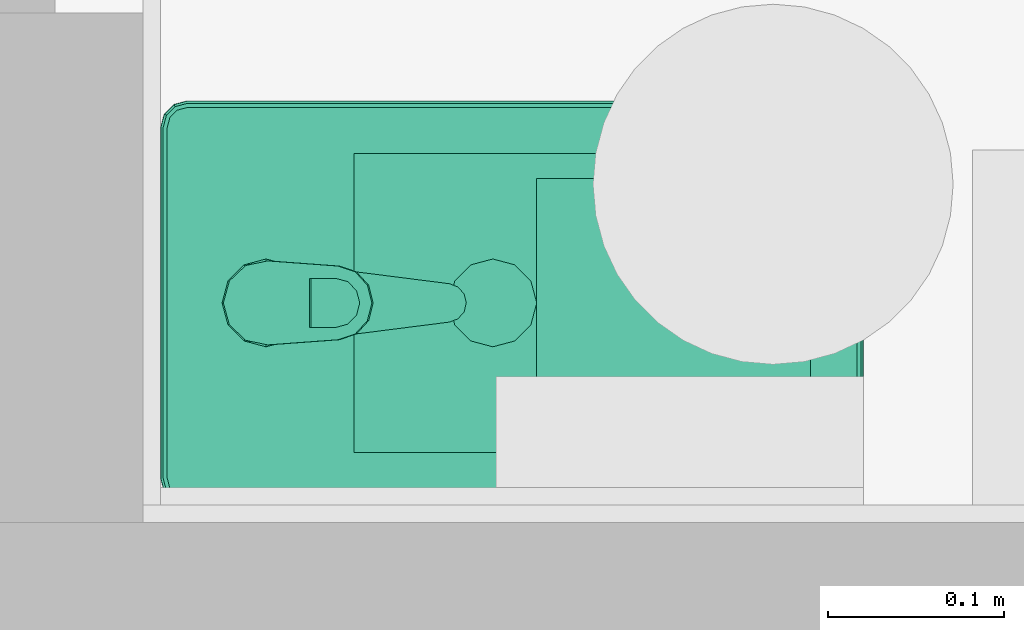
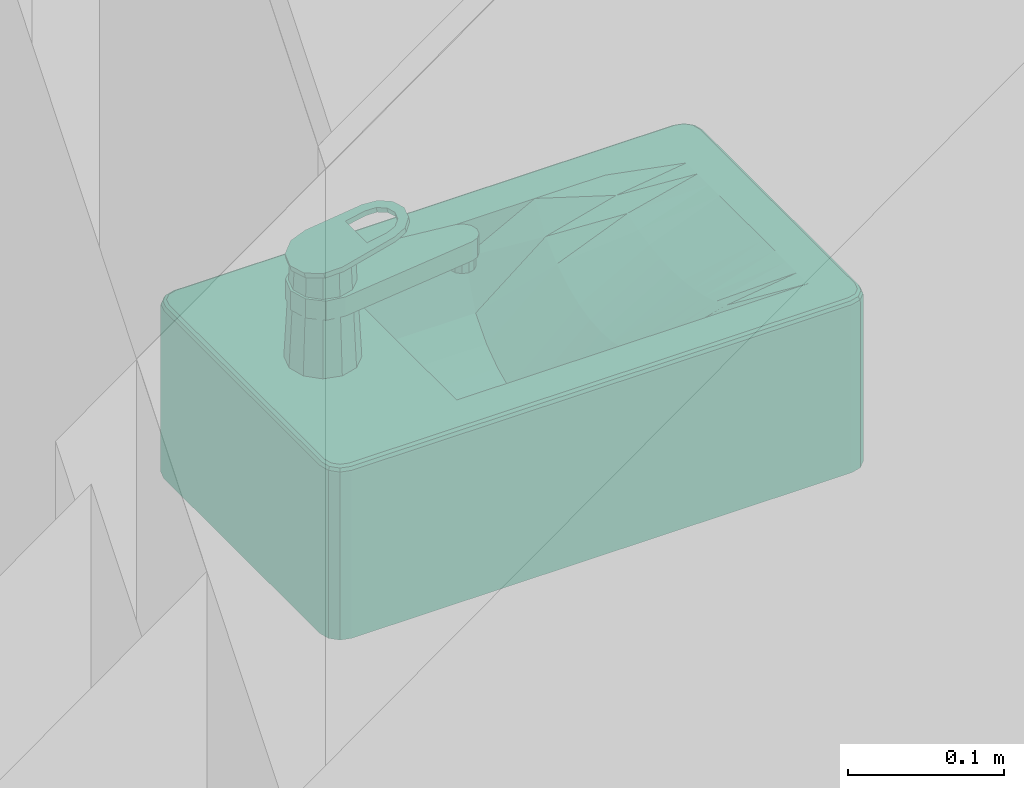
# One storey, part 257 of 301: 1 flow terminal.
"""IFC2X3 building model written with IfcOpenShell, lengths in millimetres."""

from ifc_helpers import new_model, entity, si_unit, converted_unit, derived_unit, money_unit, direction, frame, origin_with_axes, place, context, subcontext, project, spatial, open_shell, faceted_brep, surface_model, source, transform, mapped, type_object, element, save


model = new_model("IFC2X3")

# Units and contexts
model_context = context("Model", 3, precision=0.01, world=origin_with_axes(), true_north=direction((0.0, 1.0)))
body_context = subcontext(model_context, "Body", "Model", "MODEL_VIEW")
ifc_project = project(units=[si_unit("LENGTHUNIT", "METRE", prefix="MILLI"), si_unit("AREAUNIT", "SQUARE_METRE"), si_unit("VOLUMEUNIT", "CUBIC_METRE"), converted_unit("PLANEANGLEUNIT", "DEGREE", entity("IfcPlaneAngleMeasure", 0.0174532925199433), si_unit("PLANEANGLEUNIT", "RADIAN"), dimensions=[0, 0, 0, 0, 0, 0, 0]), money_unit("EUR"), converted_unit("TIMEUNIT", "Year", entity("IfcTimeMeasure", 31557600.0), si_unit("TIMEUNIT", "SECOND"), dimensions=[0, 0, 1, 0, 0, 0, 0]), si_unit("MASSUNIT", "GRAM", prefix="KILO"), si_unit("THERMODYNAMICTEMPERATUREUNIT", "DEGREE_CELSIUS"), si_unit("LUMINOUSINTENSITYUNIT", "LUMEN"), si_unit("ENERGYUNIT", "JOULE", prefix="MEGA"), derived_unit("THERMALCONDUCTANCEUNIT", [(si_unit("POWERUNIT", "WATT"), 1), (si_unit("LENGTHUNIT", "METRE"), -1), (si_unit("THERMODYNAMICTEMPERATUREUNIT", "KELVIN"), -1)]), derived_unit("SPECIFICHEATCAPACITYUNIT", [(si_unit("ENERGYUNIT", "JOULE"), 1), (si_unit("MASSUNIT", "GRAM", prefix="KILO"), -1), (si_unit("THERMODYNAMICTEMPERATUREUNIT", "KELVIN"), -1)]), derived_unit("MASSDENSITYUNIT", [(si_unit("MASSUNIT", "GRAM", prefix="KILO"), 1), (si_unit("VOLUMEUNIT", "CUBIC_METRE"), -1)])], contexts=[model_context])

# Site, building, storey
site_placement = place(None, frame((0.0, 0.0, 8650.0), z_axis=(0.0, 0.0, 1.0), x_axis=(1.0, 0.0, 0.0)))
site = spatial("IfcSite", under=ifc_project, at=site_placement, Name="43301:001:0844", CompositionType="ELEMENT")
building_placement = place(site_placement, origin_with_axes())
building = spatial("IfcBuilding", under=site, at=building_placement, Name="Kuressaare Ametikooli tuulikute mehaanikute õppekorpus", CompositionType="ELEMENT")
storey_placement = place(building_placement, origin_with_axes())
storey = spatial("IfcBuildingStorey", under=building, at=storey_placement, Name="1.korrus", CompositionType="ELEMENT", Elevation=0.0)

# Flow terminal
sanitary_terminal_type = type_object("IfcSanitaryTerminalType", Name="Basin 27", PredefinedType="NOTDEFINED")
shared_shape = source(origin_with_axes(), body_context, "Body", "SurfaceModel", [
    faceted_brep([(100.0, -400.0, 865.0), (-100.0, -400.0, 865.0), (-107.5, -397.9903810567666, 865.0), (-112.9903810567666, -392.5, 865.0), (-115.0, -385.0, 865.0), (-115.0, -14.99999999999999, 865.0), (-112.9903810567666, -7.500000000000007, 865.0), (-107.5, -2.009618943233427, 865.0), (-100.0, 0.0, 865.0), (100.0, 0.0, 865.0), (107.5, -2.009618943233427, 865.0), (112.9903810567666, -7.500000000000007, 865.0), (115.0, -14.99999999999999, 865.0), (115.0, -385.0, 865.0), (112.9903810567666, -392.5, 865.0), (107.5, -397.9903810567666, 865.0), (-85.0, -370.0, 865.0), (85.0, -370.0, 865.0), (85.0, -110.0, 865.0), (-85.0, -110.0, 865.0), (100.0000003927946, -400.0000003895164, 995.0), (-99.99999979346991, -400.0000003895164, 995.0), (-107.5000000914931, -397.9903813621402, 995.0), (-112.9903813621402, -392.5000000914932, 995.0), (-115.0000003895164, -384.99999979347, 995.0), (-115.0000003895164, -14.99999968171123, 995.0), (-112.9903813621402, -7.500000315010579, 995.0), (-107.5000000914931, -2.009619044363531, 995.0), (-99.99999979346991, -1.698735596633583e-08, 995.0), (100.0000003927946, -1.698735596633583e-08, 995.0), (107.4999997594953, -2.009619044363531, 995.0), (112.9903810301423, -7.500000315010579, 995.0), (115.0000000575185, -14.99999968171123, 995.0), (115.0000000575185, -384.99999979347, 995.0), (112.9903810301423, -392.5000000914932, 995.0), (107.4999997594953, -397.9903813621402, 995.0), (-85.0, -370.0, 999.9999996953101), (85.0, -370.0, 999.9999996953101), (85.0, -110.0, 999.9999996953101), (-85.0, -110.0, 999.9999996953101), (99.97757064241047, -399.8296295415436, 996.2940952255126), (-99.97757004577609, -399.8296295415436, 996.2940952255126), (-107.4118096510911, -397.8376310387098, 996.2940952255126), (-112.8376310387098, -392.4118096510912, 996.2940952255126), (-114.8296295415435, -384.9775700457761, 996.2940952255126), (-114.8296295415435, -15.02242943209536, 996.2940952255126), (-112.837631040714, -7.588190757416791, 996.2940952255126), (-107.4118096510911, -2.162369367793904, 996.2940952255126), (-99.97757004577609, -0.1703708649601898, 996.2940952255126), (99.97757064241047, -0.1703708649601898, 996.2940952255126), (107.4118093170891, -2.162369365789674, 996.2940952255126), (112.8376307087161, -7.588190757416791, 996.2940952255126), (114.8296292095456, -15.02242943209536, 996.2940952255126), (114.8296292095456, -384.9775700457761, 996.2940952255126), (112.8376307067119, -392.4118096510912, 996.2940952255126), (107.4118093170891, -397.8376310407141, 996.2940952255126), (-99.34173767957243, -4.999997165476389, 999.9999996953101), (-104.9118111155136, -6.492493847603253, 999.9999996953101), (-108.5075066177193, -10.08818934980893, 999.9999996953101), (-110.0000032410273, -15.65826187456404, 999.9999996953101), (-110.0000032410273, -384.3417376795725, 999.9999996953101), (-108.5075065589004, -389.9118111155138, 999.9999996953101), (-104.9118111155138, -393.5075065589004, 999.9999996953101), (-99.34173767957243, -395.0000032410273, 999.9999996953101), (99.34173819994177, -395.0000032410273, 999.9999996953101), (104.9118107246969, -393.5075066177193, 999.9999996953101), (108.5075062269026, -389.9118111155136, 999.9999996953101), (110.0000029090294, -384.3417376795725, 999.9999996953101), (110.0000029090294, -15.65826187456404, 999.9999996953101), (108.5075062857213, -10.08818934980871, 999.9999996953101), (104.9118107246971, -6.492493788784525, 999.9999996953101), (99.34173819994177, -4.999997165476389, 999.9999996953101), (99.80719978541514, -398.5355345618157, 998.5355339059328), (-99.80719920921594, -398.5355345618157, 998.5355339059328), (-106.7419367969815, -396.6773772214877, 998.5355339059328), (-111.6773772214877, -391.7419367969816, 998.5355339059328), (-113.5355345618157, -384.807199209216, 998.5355339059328), (-113.5355345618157, -15.1928002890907, 998.5355339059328), (-111.6773772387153, -8.258063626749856, 998.5355339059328), (-106.7419367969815, -3.322623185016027, 998.5355339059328), (-99.80719920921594, -1.464465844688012, 998.5355339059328), (99.80719978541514, -1.464465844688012, 998.5355339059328), (106.741936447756, -3.322623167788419, 998.5355339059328), (111.6773769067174, -8.258063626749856, 998.5355339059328), (113.5355342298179, -15.1928002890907, 998.5355339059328), (113.5355342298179, -384.807199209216, 998.5355339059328), (111.6773768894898, -391.7419367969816, 998.5355339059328), (106.741936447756, -396.6773772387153, 998.5355339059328), (-105.5816828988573, -5.332241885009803, 999.8296291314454), (-99.51210824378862, -3.70590425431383, 999.8296291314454), (-109.6677585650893, -9.41831755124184, 999.8296291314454), (-111.2940961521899, -15.48789128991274, 999.8296291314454), (-111.2940961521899, -384.5121082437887, 999.8296291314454), (-109.6677585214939, -390.5816828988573, 999.8296291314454), (-105.5816828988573, -394.667758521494, 999.8296291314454), (-99.51210824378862, -396.2940961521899, 999.8296291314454), (99.5121087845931, -396.2940961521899, 999.8296291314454), (105.581682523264, -394.6677585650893, 999.8296291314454), (109.667758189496, -390.5816828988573, 999.8296291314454), (111.294095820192, -384.5121082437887, 999.8296291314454), (111.294095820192, -15.48789128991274, 999.8296291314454), (109.6677582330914, -9.41831755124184, 999.8296291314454), (105.581682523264, -5.332241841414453, 999.8296291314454), (99.5121087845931, -3.70590425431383, 999.8296291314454)], [[[0, 1, 2, 3, 4, 5, 6, 7, 8, 9, 10, 11, 12, 13, 14, 15], [16, 17, 18, 19]], [[0, 20, 21, 1]], [[1, 21, 22, 2]], [[2, 22, 23, 3]], [[3, 23, 24, 4]], [[4, 24, 25, 5]], [[5, 25, 26, 6]], [[6, 26, 27, 7]], [[7, 27, 28, 8]], [[8, 28, 29, 9]], [[9, 29, 30, 10]], [[10, 30, 31, 11]], [[11, 31, 32, 12]], [[12, 32, 33, 13]], [[13, 33, 34, 14]], [[14, 34, 35, 15]], [[15, 35, 20, 0]], [[36, 37, 17, 16]], [[37, 38, 18, 17]], [[38, 39, 19, 18]], [[39, 36, 16, 19]], [[20, 40, 41, 21]], [[21, 41, 42, 22]], [[22, 42, 43, 23]], [[23, 43, 44, 24]], [[24, 44, 45, 25]], [[25, 45, 46, 26]], [[26, 46, 47, 27]], [[27, 47, 48, 28]], [[28, 48, 49, 29]], [[29, 49, 50, 30]], [[30, 50, 51, 31]], [[31, 51, 52, 32]], [[32, 52, 53, 33]], [[33, 53, 54, 34]], [[34, 54, 55, 35]], [[35, 55, 40, 20]], [[56, 57, 58, 59, 60, 61, 62, 63, 64, 65, 66, 67, 68, 69, 70, 71], [36, 39, 38, 37]], [[40, 72, 73, 41]], [[41, 73, 74, 42]], [[42, 74, 75, 43]], [[43, 75, 76, 44]], [[44, 76, 77, 45]], [[45, 77, 78, 46]], [[46, 78, 79, 47]], [[47, 79, 80, 48]], [[48, 80, 81, 49]], [[49, 81, 82, 50]], [[50, 82, 83, 51]], [[51, 83, 84, 52]], [[52, 84, 85, 53]], [[53, 85, 86, 54]], [[54, 86, 87, 55]], [[55, 87, 72, 40]], [[88, 57, 56, 89]], [[90, 58, 57, 88]], [[91, 59, 58, 90]], [[92, 60, 59, 91]], [[93, 61, 60, 92]], [[94, 62, 61, 93]], [[95, 63, 62, 94]], [[96, 64, 63, 95]], [[97, 65, 64, 96]], [[98, 66, 65, 97]], [[99, 67, 66, 98]], [[100, 68, 67, 99]], [[101, 69, 68, 100]], [[102, 70, 69, 101]], [[103, 71, 70, 102]], [[89, 56, 71, 103]], [[72, 96, 95, 73]], [[73, 95, 94, 74]], [[74, 94, 93, 75]], [[75, 93, 92, 76]], [[76, 92, 91, 77]], [[77, 91, 90, 78]], [[78, 90, 88, 79]], [[79, 88, 89, 80]], [[80, 89, 103, 81]], [[81, 103, 102, 82]], [[82, 102, 101, 83]], [[83, 101, 100, 84]], [[84, 100, 99, 85]], [[85, 99, 98, 86]], [[86, 98, 97, 87]], [[87, 97, 96, 72]]]),
    faceted_brep([(-85.0, -370.0, 865.0), (-85.0, -110.0, 865.0), (85.0, -110.0, 865.0), (85.0, -370.0, 865.0), (12.49999999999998, -210.733635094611, 865.0), (21.65063509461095, -201.583, 865.0), (25.0, -189.083, 865.0), (21.65063509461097, -176.583, 865.0), (12.50000000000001, -167.4323649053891, 865.0), (0.0, -164.083, 865.0), (-12.49999999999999, -167.4323649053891, 865.0), (-21.65063509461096, -176.583, 865.0), (-25.0, -189.083, 865.0), (-21.65063509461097, -201.583, 865.0), (-12.50000000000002, -210.733635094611, 865.0), (0.0, -214.083, 865.0), (-85.0, -266.0, 1000.0), (-85.0, -214.0, 972.25), (-85.0, -162.0, 972.25), (-85.0, -110.0, 972.25), (-85.0, -370.0, 1000.0), (-85.0, -318.0, 1000.0), (42.49999999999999, -110.0, 911.2166184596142), (56.66666666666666, -110.0, 921.2681999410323), (70.83333333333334, -110.0, 937.1336281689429), (85.0, -110.0, 972.2499999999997), (-70.83333333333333, -110.0, 937.133628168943), (-56.66666666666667, -110.0, 921.2681999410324), (-42.5, -110.0, 911.2166184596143), (-28.33333333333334, -110.0, 904.7939613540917), (-14.16666666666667, -110.0, 901.173124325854), (0.0, -110.0, 900.0), (14.16666666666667, -110.0, 901.173124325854), (28.33333333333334, -110.0, 904.7939613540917), (85.0, -214.0, 972.2499999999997), (85.0, -266.0, 999.9999999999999), (85.0, -318.0, 1000.0), (85.0, -370.0, 1000.0), (85.0, -162.0, 972.2499999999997), (-42.5, -370.0, 1000.0), (-56.66666666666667, -370.0, 1000.0), (-70.83333333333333, -370.0, 1000.0), (70.83333333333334, -370.0, 1000.0), (56.66666666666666, -370.0, 1000.0), (42.49999999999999, -370.0, 1000.0), (28.33333333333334, -370.0, 1000.0), (14.16666666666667, -370.0, 1000.0), (0.0, -370.0, 1000.0), (-14.16666666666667, -370.0, 1000.0), (-28.33333333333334, -370.0, 1000.0), (14.16666666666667, -209.0669684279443, 901.173124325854), (21.65063509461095, -201.583, 903.0859405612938), (12.49999999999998, -210.733635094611, 901.0351096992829), (25.0, -189.083, 903.9419997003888), (21.65063509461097, -176.583, 903.0859405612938), (14.16666666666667, -169.0990315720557, 901.173124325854), (12.50000000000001, -167.4323649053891, 901.035109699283), (0.0, -164.083, 900.0), (-12.49999999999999, -167.4323649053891, 901.035109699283), (-14.16666666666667, -169.0990315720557, 901.173124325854), (-21.65063509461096, -176.583, 903.0859405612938), (-25.0, -189.083, 903.9419997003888), (-21.65063509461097, -201.583, 903.0859405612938), (-14.16666666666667, -209.0669684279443, 901.173124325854), (-12.50000000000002, -210.733635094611, 901.035109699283), (-0.02107381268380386, -214.0773532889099, 900.0716455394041), (0.0, -214.083, 900.0751753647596), (-0.3097602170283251, -214.0, 900.0256508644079), (0.3097602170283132, -214.0, 900.0256508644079), (-70.83333333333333, -214.0, 937.133628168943), (-70.83333333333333, -162.0, 937.133628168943), (-70.83333333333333, -318.0, 992.8049756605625), (-70.83333333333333, -266.0, 978.92400992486), (56.66666666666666, -162.0, 921.2681999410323), (42.49999999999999, -162.0, 911.2166184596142), (70.83333333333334, -162.0, 937.1336281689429), (-56.66666666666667, -162.0, 921.2681999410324), (-42.5, -162.0, 911.2166184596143), (-28.33333333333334, -162.0, 904.7939613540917), (-14.16666666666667, -162.0, 901.173124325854), (0.0, -162.0, 900.0), (14.16666666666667, -162.0, 901.173124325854), (28.33333333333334, -162.0, 904.7939613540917), (70.83333333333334, -266.0, 978.92400992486), (70.83333333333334, -318.0, 992.8049756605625), (70.83333333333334, -214.0, 937.1336281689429), (-42.5, -318.0, 982.8921917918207), (-56.66666666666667, -318.0, 987.1546857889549), (56.66666666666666, -318.0, 987.1546857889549), (42.49999999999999, -318.0, 982.8921917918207), (28.33333333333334, -318.0, 979.9130117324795), (14.16666666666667, -318.0, 978.1503189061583), (0.0, -318.0, 977.5667630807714), (-14.16666666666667, -318.0, 978.1503189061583), (-28.33333333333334, -318.0, 979.9130117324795), (14.16666666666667, -214.0, 901.173124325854), (28.33333333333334, -214.0, 904.7939613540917), (-28.33333333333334, -214.0, 904.7939613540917), (-14.16666666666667, -214.0, 901.173124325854), (-14.16666666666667, -266.0, 948.1630206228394), (0.0, -266.0, 947.0978188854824), (-56.66666666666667, -214.0, 921.2681999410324), (56.66666666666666, -214.0, 921.2681999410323), (42.49999999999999, -214.0, 911.2166184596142), (-42.5, -214.0, 911.2166184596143), (14.16666666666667, -266.0, 948.1630206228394), (-28.33333333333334, -266.0, 951.4339022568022), (-56.66666666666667, -266.0, 965.9137620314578), (42.49999999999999, -266.0, 957.1657026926), (56.66666666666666, -266.0, 965.9137620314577), (-42.5, -266.0, 957.1657026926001), (28.33333333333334, -266.0, 951.4339022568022)], [[[0, 1, 2, 3], [4, 5, 6, 7, 8, 9, 10, 11, 12, 13, 14, 15]], [[16, 17, 18, 19, 1, 0, 20, 21]], [[22, 23, 24, 25, 2, 1, 19, 26, 27, 28, 29, 30, 31, 32, 33]], [[34, 35, 36, 37, 3, 2, 25, 38]], [[39, 40, 41, 20, 0, 3, 37, 42, 43, 44, 45, 46, 47, 48, 49]], [[50, 51, 5, 4, 52]], [[51, 53, 6, 5]], [[53, 54, 7, 6]], [[54, 55, 56, 8, 7]], [[56, 57, 9, 8]], [[57, 58, 10, 9]], [[58, 59, 60, 11, 10]], [[60, 61, 12, 11]], [[61, 62, 13, 12]], [[63, 64, 14, 13, 62]], [[65, 66, 15, 14, 64, 67]], [[68, 52, 4, 15, 66]], [[16, 69, 17]], [[69, 70, 18, 17]], [[70, 26, 19, 18]], [[20, 71, 21]], [[21, 72, 16]], [[73, 23, 22, 74]], [[75, 24, 23, 73]], [[38, 25, 24, 75]], [[76, 27, 26, 70]], [[77, 28, 27, 76]], [[78, 29, 28, 77]], [[79, 30, 29, 78]], [[80, 31, 30, 79]], [[81, 32, 31, 80]], [[82, 33, 32, 81]], [[74, 22, 33, 82]], [[83, 35, 34]], [[84, 36, 35]], [[42, 37, 36]], [[34, 38, 75, 85]], [[40, 39, 86]], [[41, 40, 87]], [[20, 41, 71]], [[43, 42, 84]], [[44, 43, 88]], [[45, 44, 89]], [[46, 45, 90]], [[47, 46, 91]], [[48, 47, 92]], [[49, 48, 93]], [[39, 49, 94]], [[55, 54, 53, 51, 50, 95, 96, 82, 81]], [[52, 68, 95, 50]], [[56, 55, 81, 80, 57]], [[58, 57, 80, 79, 59]], [[60, 59, 79, 78, 97, 98, 63, 62, 61]], [[64, 63, 98, 67]], [[66, 65, 99, 100]], [[65, 67, 98, 99]], [[68, 66, 100, 95]], [[16, 72, 69]], [[101, 76, 70, 69]], [[21, 71, 72]], [[102, 73, 74, 103]], [[85, 75, 73, 102]], [[104, 77, 76, 101]], [[97, 78, 77, 104]], [[103, 74, 82, 96]], [[84, 35, 83]], [[83, 34, 85]], [[42, 36, 84]], [[39, 94, 86]], [[40, 86, 87]], [[41, 87, 71]], [[43, 84, 88]], [[44, 88, 89]], [[45, 89, 90]], [[46, 90, 91]], [[47, 91, 92]], [[48, 92, 93]], [[49, 93, 94]], [[105, 96, 95]], [[106, 98, 97]], [[93, 100, 99]], [[106, 99, 98]], [[100, 105, 95]], [[72, 101, 69]], [[71, 107, 72]], [[108, 102, 103]], [[109, 85, 102]], [[107, 104, 101]], [[110, 97, 104]], [[111, 103, 96]], [[88, 84, 83]], [[109, 83, 85]], [[86, 94, 106]], [[87, 86, 110]], [[71, 87, 107]], [[89, 88, 109]], [[90, 89, 108]], [[91, 90, 111]], [[92, 91, 105]], [[93, 92, 100]], [[94, 93, 99]], [[105, 111, 96]], [[110, 106, 97]], [[94, 99, 106]], [[92, 105, 100]], [[72, 107, 101]], [[108, 109, 102]], [[111, 108, 103]], [[107, 110, 104]], [[88, 83, 109]], [[86, 106, 110]], [[87, 110, 107]], [[89, 109, 108]], [[90, 108, 111]], [[91, 111, 105]]]),
    faceted_brep([(21.65063509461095, -201.583, 900.0), (12.49999999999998, -210.733635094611, 900.0), (0.0, -214.083, 900.0), (-12.50000000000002, -210.733635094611, 900.0), (-21.65063509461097, -201.583, 900.0), (-25.0, -189.083, 900.0), (-21.65063509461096, -176.583, 900.0), (-12.49999999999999, -167.4323649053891, 900.0), (0.0, -164.083, 900.0), (12.50000000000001, -167.4323649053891, 900.0), (21.65063509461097, -176.583, 900.0), (25.0, -189.083, 900.0), (21.65063509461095, -201.583, 905.0), (12.49999999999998, -210.733635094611, 905.0), (0.0, -214.083, 905.0), (-12.50000000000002, -210.733635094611, 905.0), (-21.65063509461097, -201.583, 905.0), (-25.0, -189.083, 905.0), (-21.65063509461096, -176.583, 905.0), (-12.49999999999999, -167.4323649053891, 905.0), (0.0, -164.083, 905.0), (12.50000000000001, -167.4323649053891, 905.0), (21.65063509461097, -176.583, 905.0), (25.0, -189.083, 905.0)], [[[0, 1, 2, 3, 4, 5, 6, 7, 8, 9, 10, 11]], [[1, 0, 12, 13]], [[2, 1, 13, 14]], [[3, 2, 14, 15]], [[4, 3, 15, 16]], [[5, 4, 16, 17]], [[6, 5, 17, 18]], [[7, 6, 18, 19]], [[8, 7, 19, 20]], [[9, 8, 20, 21]], [[10, 9, 21, 22]], [[11, 10, 22, 23]], [[0, 11, 23, 12]], [[12, 23, 22, 21, 20, 19, 18, 17, 16, 15, 14, 13]]]),
    surface_model("IfcShellBasedSurfaceModel", [(0.0, -189.083, 907.0), (0.0, -176.46109443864, 906.4975737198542), (-6.310952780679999, -178.1521091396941, 906.4975737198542), (6.310952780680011, -178.1521091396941, 906.4975737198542), (0.0, -164.083, 905.0), (-12.5, -167.4323649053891, 905.0), (-10.93089086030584, -182.77204721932, 906.4975737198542), (10.93089086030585, -182.77204721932, 906.4975737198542), (12.50000000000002, -167.4323649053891, 905.0), (-21.65063509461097, -176.583, 905.0), (-12.62190556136, -189.083, 906.4975737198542), (12.62190556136, -189.083, 906.4975737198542), (21.65063509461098, -176.583, 905.0), (-25.0, -189.083, 905.0), (-10.93089086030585, -195.39395278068, 906.4975737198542), (10.93089086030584, -195.39395278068, 906.4975737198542), (25.0, -189.083, 905.0), (-21.65063509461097, -201.583, 905.0), (-6.310952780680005, -200.0138908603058, 906.4975737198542), (6.310952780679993, -200.0138908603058, 906.4975737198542), (21.65063509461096, -201.583, 905.0), (-12.50000000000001, -210.733635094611, 905.0), (0.0, -201.70490556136, 906.4975737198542), (12.49999999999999, -210.733635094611, 905.0), (0.0, -214.083, 905.0)], [open_shell([[[0, 1, 2]], [[0, 3, 1]], [[2, 1, 4, 5]], [[0, 2, 6]], [[0, 7, 3]], [[1, 3, 8, 4]], [[6, 2, 5, 9]], [[0, 6, 10]], [[0, 11, 7]], [[3, 7, 12, 8]], [[10, 6, 9, 13]], [[0, 10, 14]], [[0, 15, 11]], [[7, 11, 16, 12]], [[14, 10, 13, 17]], [[0, 14, 18]], [[0, 19, 15]], [[11, 15, 20, 16]], [[18, 14, 17, 21]], [[0, 18, 22]], [[0, 22, 19]], [[15, 19, 23, 20]], [[22, 18, 21, 24]], [[19, 22, 24, 23]]])]),
    faceted_brep([(12.50000000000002, -38.34936490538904, 1000.0), (0.0, -34.99999999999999, 1000.0), (0.0, -38.79807692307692, 1075.961538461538), (10.587322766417, -41.66221905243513, 1076.507089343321), (21.65063509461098, -47.50000000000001, 1000.0), (25.0, -60.00000000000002, 1000.0), (21.65063509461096, -72.50000000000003, 1000.0), (12.49999999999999, -81.65063509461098, 1000.0), (0.0, -84.99999999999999, 1000.0), (-12.50000000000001, -81.65063509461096, 1000.0), (-21.65063509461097, -72.5, 1000.0), (-25.0, -59.99999999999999, 1000.0), (-21.65063509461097, -47.49999999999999, 1000.0), (-12.5, -38.34936490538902, 1000.0), (-10.58732276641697, -41.66221905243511, 1076.507089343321), (-18.27355038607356, -49.44976076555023, 1077.99043062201), (-21.0, -59.99999999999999, 1080.0), (-18.10034137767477, -70.45023696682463, 1081.990521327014), (-10.41410590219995, -78.0377605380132, 1083.435763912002), (0.0, -80.80188679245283, 1083.962264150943), (10.41410590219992, -78.03776053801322, 1083.435763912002), (18.10034137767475, -70.45023696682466, 1081.990521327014), (21.0, -60.00000000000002, 1080.0), (18.27355038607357, -49.44976076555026, 1077.99043062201)], [[[0, 1, 2, 3]], [[0, 4, 5, 6, 7, 8, 9, 10, 11, 12, 13, 1]], [[1, 13, 14, 2]], [[3, 2, 14, 15, 16, 17, 18, 19, 20, 21, 22, 23]], [[4, 0, 3, 23]], [[5, 4, 23, 22]], [[6, 5, 22, 21]], [[7, 6, 21, 20]], [[8, 7, 20, 19]], [[9, 8, 19, 18]], [[10, 9, 18, 17]], [[11, 10, 17, 16]], [[12, 11, 16, 15]], [[13, 12, 15, 14]]]),
    faceted_brep([(9.000000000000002, -163.0, 1035.0), (7.794228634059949, -158.5, 1035.0), (7.794228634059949, -158.5, 1045.0), (9.000000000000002, -163.0, 1045.0), (7.794228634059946, -167.5, 1035.0), (4.499999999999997, -170.79422863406, 1035.0), (0.0, -172.0, 1035.0), (-4.500000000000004, -170.79422863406, 1035.0), (-7.794228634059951, -167.5, 1035.0), (-9.000000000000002, -163.0, 1035.0), (-7.794228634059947, -158.5, 1035.0), (-4.499999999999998, -155.2057713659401, 1035.0), (0.0, -154.0, 1035.0), (4.500000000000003, -155.2057713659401, 1035.0), (4.500000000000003, -155.2057713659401, 1045.0), (0.0, -154.0, 1045.0), (-4.499999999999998, -155.2057713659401, 1045.0), (-7.794228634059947, -158.5, 1045.0), (-9.000000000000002, -163.0, 1045.0), (-7.794228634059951, -167.5, 1045.0), (-4.500000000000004, -170.79422863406, 1045.0), (0.0, -172.0, 1045.0), (4.499999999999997, -170.79422863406, 1045.0), (7.794228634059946, -167.5, 1045.0)], [[[0, 1, 2, 3]], [[0, 4, 5, 6, 7, 8, 9, 10, 11, 12, 13, 1]], [[1, 13, 14, 2]], [[3, 2, 14, 15, 16, 17, 18, 19, 20, 21, 22, 23]], [[4, 0, 3, 23]], [[5, 4, 23, 22]], [[6, 5, 22, 21]], [[7, 6, 21, 20]], [[8, 7, 20, 19]], [[9, 8, 19, 18]], [[10, 9, 18, 17]], [[11, 10, 17, 16]], [[12, 11, 16, 15]], [[13, 12, 15, 14]]]),
    faceted_brep([(-12.87171762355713, -39.74369617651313, 1060.0), (-21.72780530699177, -49.80679463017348, 1060.0), (-23.8054, -63.04989999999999, 1060.0), (-10.9119908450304, -164.3883719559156, 1060.0), (-9.02887546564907, -169.2831941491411, 1060.0), (-5.093324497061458, -172.7497264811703, 1060.0), (3.626798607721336e-05, -173.9999600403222, 1060.0), (5.093388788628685, -172.7496928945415, 1060.0), (9.02891689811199, -169.2831346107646, 1060.0), (10.912, -164.3883, 1060.0), (23.80539974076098, -63.04990202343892, 1060.0), (21.72780617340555, -49.80679647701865, 1060.0), (12.87171934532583, -39.74369727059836, 1060.0), (1.019988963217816e-06, -36.00002168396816, 1060.0), (11.00000000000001, -40.94744111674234, 1060.0), (19.05255888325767, -48.99999999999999, 1060.0), (22.00000000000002, -60.0, 1060.0), (19.05255888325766, -71.00000000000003, 1060.0), (10.99999999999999, -79.05255888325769, 1060.0), (0.0, -82.0, 1060.0), (-11.00000000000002, -79.05255888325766, 1060.0), (-19.05255888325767, -70.99999999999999, 1060.0), (-22.00000000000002, -59.99999999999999, 1060.0), (-19.05255888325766, -48.99999999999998, 1060.0), (-11.0, -40.94744111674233, 1060.0), (0.0, -37.99999999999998, 1060.0), (-21.72780530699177, -49.80679463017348, 1045.0), (-12.87171762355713, -39.74369617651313, 1045.0), (-23.8054, -63.04989999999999, 1045.0), (-10.9119908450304, -164.3883719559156, 1045.0), (-9.02887546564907, -169.2831941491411, 1045.0), (-5.093324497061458, -172.7497264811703, 1045.0), (3.626798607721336e-05, -173.9999600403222, 1045.0), (5.093388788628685, -172.7496928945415, 1045.0), (9.02891689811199, -169.2831346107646, 1045.0), (10.912, -164.3883, 1045.0), (23.80539974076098, -63.04990202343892, 1045.0), (21.72780617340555, -49.80679647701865, 1045.0), (12.87171934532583, -39.74369727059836, 1045.0), (1.019988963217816e-06, -36.00002168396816, 1045.0), (11.37500000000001, -40.297922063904, 1045.0), (19.70207793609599, -48.62499999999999, 1045.0), (22.75000000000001, -60.0, 1045.0), (19.70207793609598, -71.37500000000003, 1045.0), (11.37499999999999, -79.702077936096, 1045.0), (0.0, -82.75, 1045.0), (-11.37500000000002, -79.70207793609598, 1045.0), (-19.70207793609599, -71.375, 1045.0), (-22.75000000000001, -59.99999999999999, 1045.0), (-19.70207793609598, -48.62499999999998, 1045.0), (-11.375, -40.297922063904, 1045.0), (0.0, -37.24999999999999, 1045.0)], [[[0, 1, 2, 3, 4, 5, 6, 7, 8, 9, 10, 11, 12, 13], [14, 15, 16, 17, 18, 19, 20, 21, 22, 23, 24, 25]], [[26, 1, 0, 27]], [[28, 2, 1, 26]], [[29, 3, 2, 28]], [[30, 4, 3, 29]], [[31, 5, 4, 30]], [[32, 6, 5, 31]], [[33, 7, 6, 32]], [[34, 8, 7, 33]], [[35, 9, 8, 34]], [[36, 10, 9, 35]], [[37, 11, 10, 36]], [[38, 12, 11, 37]], [[39, 13, 12, 38]], [[27, 0, 13, 39]], [[40, 41, 15, 14]], [[41, 42, 16, 15]], [[42, 43, 17, 16]], [[43, 44, 18, 17]], [[44, 45, 19, 18]], [[20, 19, 45, 46]], [[21, 20, 46, 47]], [[22, 21, 47, 48]], [[23, 22, 48, 49]], [[24, 23, 49, 50]], [[50, 51, 25, 24]], [[51, 40, 14, 25]], [[32, 31, 30, 29, 28, 26, 27, 39, 38, 37, 36, 35, 34, 33], [44, 43, 42, 41, 40, 51, 50, 49, 48, 47, 46, 45]]]),
    faceted_brep([(23.893, -61.69256934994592, 1080.322394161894), (21.29642141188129, -49.22528119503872, 1077.947672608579), (21.29642141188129, -48.47683276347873, 1081.877026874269), (23.893, -60.94412091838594, 1084.251748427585), (20.94593649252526, -101.8367022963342, 1087.968895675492), (17.66313911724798, -111.514366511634, 1089.81226028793), (10.06143529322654, -118.4637460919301, 1091.135951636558), (-0.0004426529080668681, -120.9856119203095, 1091.61630703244), (-10.06221236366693, -118.4633294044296, 1091.13587226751), (-17.66361794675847, -111.5136350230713, 1089.812120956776), (-20.946, -101.8358348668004, 1087.968730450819), (-23.89302047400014, -61.69229042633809, 1080.322341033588), (-21.29629106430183, -49.22503258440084, 1077.947625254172), (-12.4716815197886, -39.90880255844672, 1076.173105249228), (0.0001423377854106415, -36.46803549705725, 1075.517721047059), (12.47192457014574, -39.90894815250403, 1076.173132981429), (14.0, -85.54080272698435, 1084.86491480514), (-14.0, -85.54080272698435, 1084.86491480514), (-14.0, -100.3564329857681, 1087.686939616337), (-12.12435565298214, -107.2328029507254, 1088.996724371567), (-7.000000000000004, -112.2666551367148, 1089.955553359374), (0.0, -114.1091729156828, 1090.306509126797), (6.999999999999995, -112.2666551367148, 1089.955553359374), (12.12435565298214, -107.2328029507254, 1088.996724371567), (14.0, -100.3564329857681, 1087.686939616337), (12.47192457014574, -39.16049972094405, 1080.102487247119), (0.0001423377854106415, -35.71958706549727, 1079.447075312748), (-12.4716815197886, -39.16035412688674, 1080.102459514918), (-21.29629106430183, -48.47658415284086, 1081.876979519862), (-23.89302047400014, -60.9438419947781, 1084.251695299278), (-20.946, -101.0873864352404, 1091.898084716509), (-17.66361794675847, -110.7651865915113, 1093.741475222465), (-10.06221236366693, -117.7148809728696, 1095.0652265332), (-0.0004426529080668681, -120.2371634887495, 1095.54566129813), (10.06143529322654, -117.7152976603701, 1095.065305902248), (17.66313911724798, -110.765918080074, 1093.74161455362), (20.94593649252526, -101.0882538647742, 1091.898249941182), (14.0, -84.79235429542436, 1088.79426907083), (14.0, -99.60798455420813, 1091.616293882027), (12.12435565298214, -106.4843545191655, 1092.926078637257), (6.999999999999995, -111.5182067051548, 1093.884907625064), (0.0, -113.3607244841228, 1094.235863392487), (-7.000000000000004, -111.5182067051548, 1093.884907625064), (-12.12435565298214, -106.4843545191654, 1092.926078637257), (-14.0, -99.60798455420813, 1091.616293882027), (-14.0, -84.79235429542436, 1088.79426907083)], [[[0, 1, 2, 3]], [[0, 4, 5, 6, 7, 8, 9, 10, 11, 12, 13, 14, 15, 1], [16, 17, 18, 19, 20, 21, 22, 23, 24]], [[1, 15, 25, 2]], [[3, 2, 25, 26, 27, 28, 29, 30, 31, 32, 33, 34, 35, 36], [37, 38, 39, 40, 41, 42, 43, 44, 45]], [[4, 0, 3, 36]], [[5, 4, 36, 35]], [[6, 5, 35, 34]], [[7, 6, 34, 33]], [[8, 7, 33, 32]], [[9, 8, 32, 31]], [[10, 9, 31, 30]], [[11, 10, 30, 29]], [[12, 11, 29, 28]], [[13, 12, 28, 27]], [[14, 13, 27, 26]], [[15, 14, 26, 25]], [[17, 16, 37, 45]], [[18, 17, 45, 44]], [[19, 18, 44, 43]], [[20, 19, 43, 42]], [[21, 20, 42, 41]], [[22, 21, 41, 40]], [[23, 22, 40, 39]], [[24, 23, 39, 38]], [[16, 24, 38, 37]]]),
])
flow_terminal_placement = place(storey_placement, frame((110565.5121979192, 18079.83675983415, -149.9999999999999), z_axis=(0.0, 0.0, 1.0), x_axis=(1.339727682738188e-07, 0.999999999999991, 0.0)))
element("IfcFlowTerminal", 1, at=flow_terminal_placement, inside=storey, type_object=sanitary_terminal_type, Name="V2", context=body_context, shape_type="MappedRepresentation", body=[
    mapped(shared_shape, transform((0.0, 0.0, 0.0))),
])

save(model, "model.ifc")
